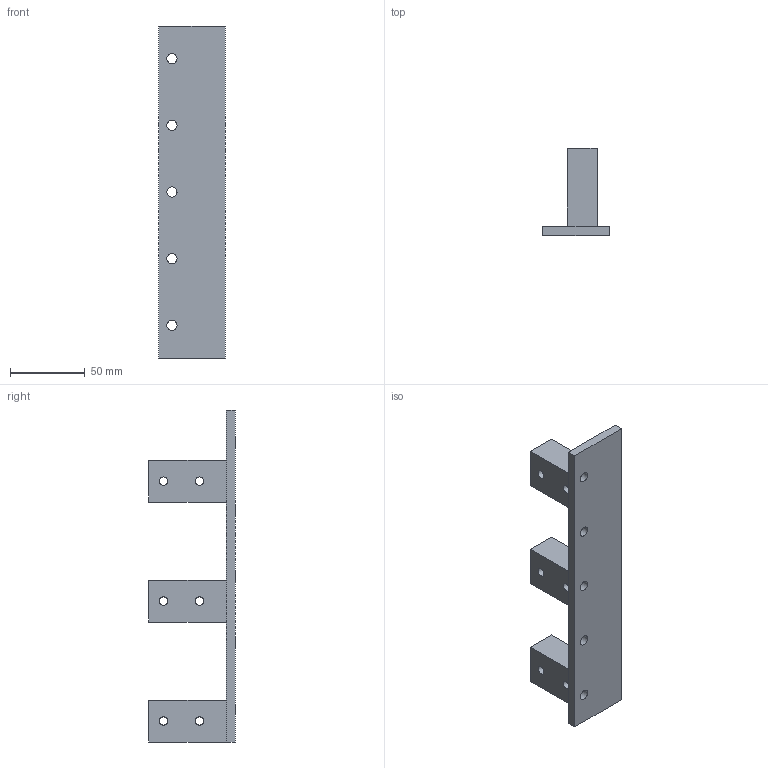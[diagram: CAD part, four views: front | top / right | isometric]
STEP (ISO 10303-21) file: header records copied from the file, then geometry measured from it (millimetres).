
FILE_DESCRIPTION(('Open CASCADE Model'),'2;1');
FILE_NAME('Open CASCADE Shape Model','2026-10-02T21:09:01',('Author'),( 'Open CASCADE'),'Open CASCADE STEP processor 7.8','Open CASCADE 7.8' ,'Unknown');
FILE_SCHEMA(('AUTOMOTIVE_DESIGN { 1 0 10303 214 1 1 1 1 }'));
Length unit declared in the file: millimetre
Products named in the file (1): Open CASCADE STEP translator 7.8 4
Bounding box: 44.3 x 58 x 221.45 mm (x, y, z)
Volume: 130434.4 mm3; surface area: 41311 mm2
Topology: 1 solids, 1 shells, 58 faces, 153 edges, 102 vertices
Faces by surface type: plane 35, cylinder 23
Full cylindrical faces by diameter (mm): 5.6 x6, 6.8 x5
Entity records: 3966 total; most frequent: CARTESIAN_POINT 860, DIRECTION 583, LINE 367, VECTOR 367, ORIENTED_EDGE 306, PCURVE 306, DEFINITIONAL_REPRESENTATION 306, EDGE_CURVE 153
